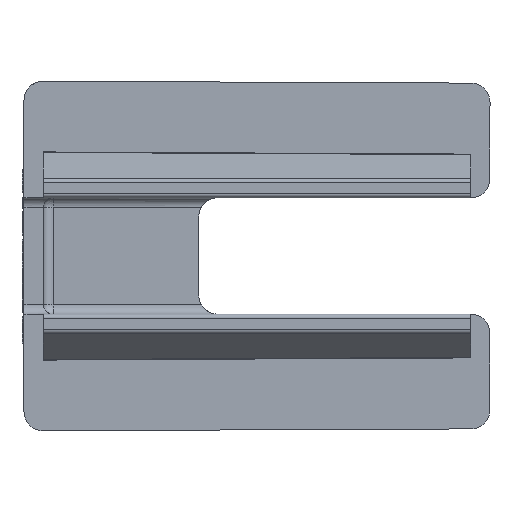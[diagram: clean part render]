
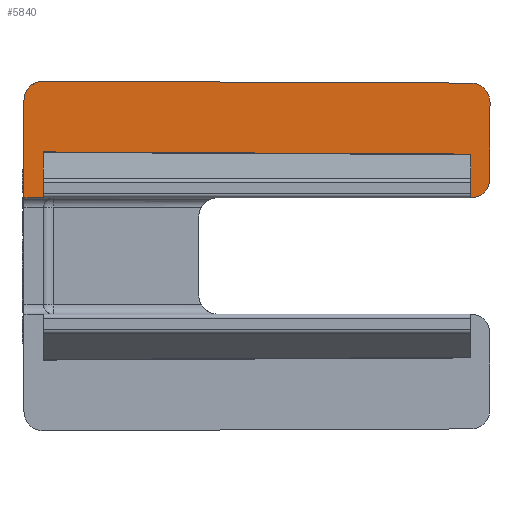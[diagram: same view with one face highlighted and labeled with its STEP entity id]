
A CAD part, left-side view. The second image highlights one B-rep face of the part: STEP entity #5840.
In plain terms, the highlighted planar face has unit normal (-1, 0, 0).
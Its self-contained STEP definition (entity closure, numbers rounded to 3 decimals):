
#109 = DIRECTION ( 'NONE',  ( 1., 0., 0. ) ) ;
#155 = VERTEX_POINT ( 'NONE', #3750 ) ;
#163 = DIRECTION ( 'NONE',  ( 0., 0., -1. ) ) ;
#211 = DIRECTION ( 'NONE',  ( 0., -1., 0. ) ) ;
#322 = CARTESIAN_POINT ( 'NONE',  ( 14.954, -14.054, 4.8 ) ) ;
#555 = VECTOR ( 'NONE', #4793, 1000. ) ;
#609 = ORIENTED_EDGE ( 'NONE', *, *, #4366, .F. ) ;
#698 = ORIENTED_EDGE ( 'NONE', *, *, #2477, .T. ) ;
#871 = CARTESIAN_POINT ( 'NONE',  ( 14.954, 7.941, 9. ) ) ;
#917 = VERTEX_POINT ( 'NONE', #2920 ) ;
#918 = LINE ( 'NONE', #322, #3224 ) ;
#949 = ORIENTED_EDGE ( 'NONE', *, *, #3162, .T. ) ;
#989 = ORIENTED_EDGE ( 'NONE', *, *, #2645, .T. ) ;
#1068 = CARTESIAN_POINT ( 'NONE',  ( 14.954, -15.054, 8.9 ) ) ;
#1201 = CARTESIAN_POINT ( 'NONE',  ( 14.954, 8.946, 8. ) ) ;
#1202 = CARTESIAN_POINT ( 'NONE',  ( 14.954, 7.946, 4.8 ) ) ;
#1338 = DIRECTION ( 'NONE',  ( 0., -1., -0.004 ) ) ;
#1401 = VERTEX_POINT ( 'NONE', #1743 ) ;
#1436 = ORIENTED_EDGE ( 'NONE', *, *, #5155, .F. ) ;
#1528 = VERTEX_POINT ( 'NONE', #3661 ) ;
#1743 = CARTESIAN_POINT ( 'NONE',  ( 14.954, 7.946, 3. ) ) ;
#1774 = AXIS2_PLACEMENT_3D ( 'NONE', #2854, #109, #3303 ) ;
#1811 = CARTESIAN_POINT ( 'NONE',  ( 14.954, 8.946, 3. ) ) ;
#1826 = EDGE_CURVE ( 'NONE', #5758, #2628, #4744, .T. ) ;
#1898 = DIRECTION ( 'NONE',  ( 1., 0., 0. ) ) ;
#2113 = EDGE_LOOP ( 'NONE', ( #3275, #2617, #989, #698, #5504, #4668, #2357, #949, #1436, #609 ) ) ;
#2114 = CARTESIAN_POINT ( 'NONE',  ( 14.954, 8.946, 8. ) ) ;
#2173 = CARTESIAN_POINT ( 'NONE',  ( 14.954, 7.941, 9. ) ) ;
#2294 = VECTOR ( 'NONE', #3026, 1000. ) ;
#2312 = AXIS2_PLACEMENT_3D ( 'NONE', #4652, #1898, #5118 ) ;
#2326 = CARTESIAN_POINT ( 'NONE',  ( 14.954, 7.946, -8. ) ) ;
#2352 = LINE ( 'NONE', #1068, #3291 ) ;
#2357 = ORIENTED_EDGE ( 'NONE', *, *, #3080, .F. ) ;
#2477 = EDGE_CURVE ( 'NONE', #3359, #1528, #2996, .T. ) ;
#2617 = ORIENTED_EDGE ( 'NONE', *, *, #3690, .T. ) ;
#2623 = DIRECTION ( 'NONE',  ( 0., 0., 1. ) ) ;
#2628 = VERTEX_POINT ( 'NONE', #1201 ) ;
#2645 = EDGE_CURVE ( 'NONE', #1401, #3359, #3349, .T. ) ;
#2646 = CARTESIAN_POINT ( 'NONE',  ( 14.954, -14.054, 7.904 ) ) ;
#2689 = VERTEX_POINT ( 'NONE', #2173 ) ;
#2800 = DIRECTION ( 'NONE',  ( 1., 0., 0. ) ) ;
#2854 = CARTESIAN_POINT ( 'NONE',  ( 14.954, 7.946, 8. ) ) ;
#2920 = CARTESIAN_POINT ( 'NONE',  ( 14.954, -14.059, 8.904 ) ) ;
#2949 = FACE_OUTER_BOUND ( 'NONE', #2113, .T. ) ;
#2996 = LINE ( 'NONE', #3417, #5295 ) ;
#3013 = CIRCLE ( 'NONE', #1774, 1. ) ;
#3026 = DIRECTION ( 'NONE',  ( 0., 0., 1. ) ) ;
#3080 = EDGE_CURVE ( 'NONE', #5498, #5914, #2352, .T. ) ;
#3117 = DIRECTION ( 'NONE',  ( 0., 0., 1. ) ) ;
#3162 = EDGE_CURVE ( 'NONE', #5498, #917, #5307, .T. ) ;
#3224 = VECTOR ( 'NONE', #5815, 1000. ) ;
#3241 = LINE ( 'NONE', #871, #4323 ) ;
#3275 = ORIENTED_EDGE ( 'NONE', *, *, #1826, .F. ) ;
#3291 = VECTOR ( 'NONE', #163, 1000. ) ;
#3303 = DIRECTION ( 'NONE',  ( 0., 0., 1. ) ) ;
#3349 = LINE ( 'NONE', #5372, #5808 ) ;
#3357 = EDGE_CURVE ( 'NONE', #155, #1528, #918, .T. ) ;
#3359 = VERTEX_POINT ( 'NONE', #1202 ) ;
#3417 = CARTESIAN_POINT ( 'NONE',  ( 14.954, 7.946, 4.8 ) ) ;
#3661 = CARTESIAN_POINT ( 'NONE',  ( 14.954, -14.054, 4.8 ) ) ;
#3690 = EDGE_CURVE ( 'NONE', #5758, #1401, #5457, .T. ) ;
#3694 = CARTESIAN_POINT ( 'NONE',  ( 14.954, -15.054, 4. ) ) ;
#3750 = CARTESIAN_POINT ( 'NONE',  ( 14.954, -14.054, 3. ) ) ;
#3878 = CARTESIAN_POINT ( 'NONE',  ( 14.954, 7.946, 3. ) ) ;
#3902 = EDGE_CURVE ( 'NONE', #5914, #155, #4101, .T. ) ;
#4101 = CIRCLE ( 'NONE', #2312, 1. ) ;
#4323 = VECTOR ( 'NONE', #1338, 1000. ) ;
#4366 = EDGE_CURVE ( 'NONE', #2628, #2689, #3013, .T. ) ;
#4652 = CARTESIAN_POINT ( 'NONE',  ( 14.954, -14.054, 4. ) ) ;
#4668 = ORIENTED_EDGE ( 'NONE', *, *, #3902, .F. ) ;
#4744 = LINE ( 'NONE', #2114, #2294 ) ;
#4793 = DIRECTION ( 'NONE',  ( 0., -1., 0. ) ) ;
#5083 = PLANE ( 'NONE',  #5378 ) ;
#5118 = DIRECTION ( 'NONE',  ( 0., 0., 1. ) ) ;
#5155 = EDGE_CURVE ( 'NONE', #2689, #917, #3241, .T. ) ;
#5295 = VECTOR ( 'NONE', #211, 1000. ) ;
#5307 = CIRCLE ( 'NONE', #5634, 1. ) ;
#5326 = DIRECTION ( 'NONE',  ( 0., 0., 1. ) ) ;
#5372 = CARTESIAN_POINT ( 'NONE',  ( 14.954, 7.946, 4.8 ) ) ;
#5378 = AXIS2_PLACEMENT_3D ( 'NONE', #2326, #2800, #5326 ) ;
#5457 = LINE ( 'NONE', #3878, #555 ) ;
#5498 = VERTEX_POINT ( 'NONE', #5818 ) ;
#5504 = ORIENTED_EDGE ( 'NONE', *, *, #3357, .F. ) ;
#5634 = AXIS2_PLACEMENT_3D ( 'NONE', #2646, #5869, #3117 ) ;
#5758 = VERTEX_POINT ( 'NONE', #1811 ) ;
#5808 = VECTOR ( 'NONE', #2623, 1000. ) ;
#5815 = DIRECTION ( 'NONE',  ( 0., 0., 1. ) ) ;
#5818 = CARTESIAN_POINT ( 'NONE',  ( 14.954, -15.054, 7.904 ) ) ;
#5840 = ADVANCED_FACE ( 'NONE', ( #2949 ), #5083, .F. ) ;
#5869 = DIRECTION ( 'NONE',  ( -1., 0., 0. ) ) ;
#5914 = VERTEX_POINT ( 'NONE', #3694 ) ;
